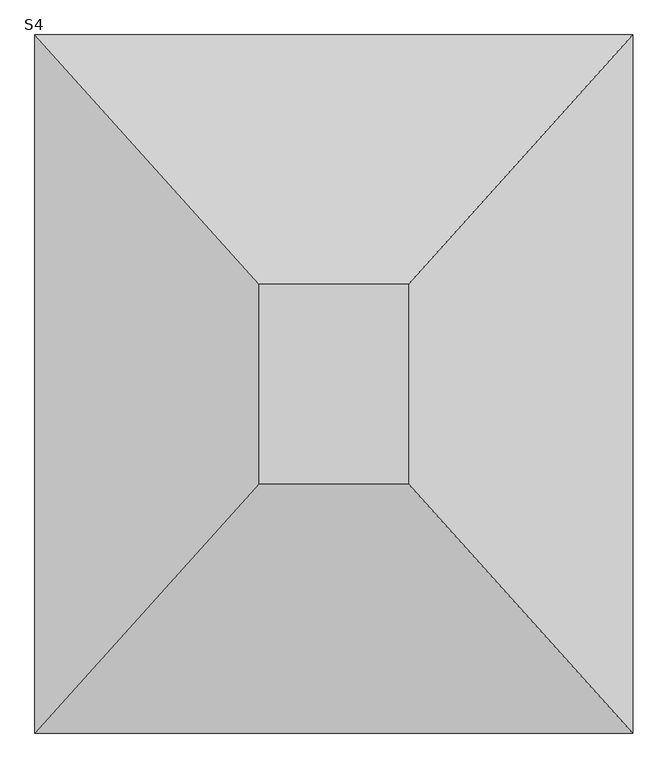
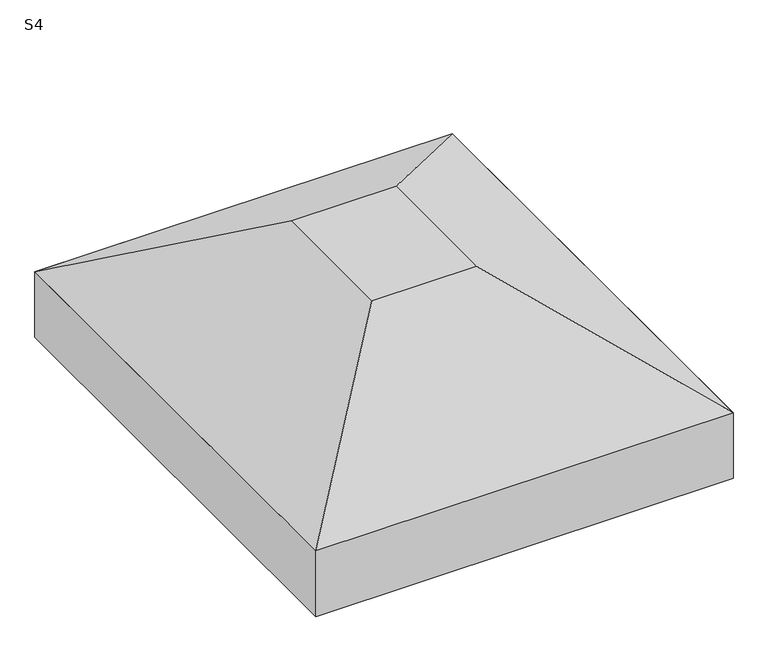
"""IFC4 building model written with IfcOpenShell, lengths in millimetres: fastener geometry, TQS - Sapata : S4."""

from ifc_helpers import new_model, si_unit, frame, origin, place, context, project, spatial, polyline, outline, extrude, faceted_brep, source, transform, mapped, element, save


def s4_ccf26fc8(model_context):
    return source(origin(), model_context, "Body", "SolidModel", [
        faceted_brep([(-50.0, 0.0, 0.0), (-350.0, 0.0, 0.0), (-350.0, -400.0, 0.0), (-50.0, -400.0, 0.0), (400.0, 500.0, -300.0), (400.0, -900.0, -300.0), (-800.0, -900.0, -300.0), (-800.0, 500.0, -300.0)], [[[0, 1, 2, 3]], [[4, 5, 6, 7]], [[4, 7, 1, 0]], [[7, 6, 2, 1]], [[6, 5, 3, 2]], [[5, 4, 0, 3]]]),
        extrude(outline(polyline([(400.0, 500.0), (400.0, -900.0), (-800.0, -900.0), (-800.0, 500.0), (400.0, 500.0)])), frame((0.0, 0.0, -500.0), z_axis=(0.0, 0.0, 1.0), x_axis=(1.0, 0.0, 0.0)), (0.0, 0.0, 1.0), 200.0),
    ])


if __name__ == "__main__":
    model = new_model("IFC4")
    model_context = context("Model", 3, world=origin())
    ifc_project = project(units=[si_unit("LENGTHUNIT", "METRE", prefix="MILLI")], contexts=[model_context])
    site = spatial("IfcSite", under=ifc_project)
    building = spatial("IfcBuilding", under=site)
    placement = place(None, origin())
    s4_shape = s4_ccf26fc8(model_context)
    element("IfcFastener", 1, ObjectType="TQS - Sapata : S4", at=placement, inside=building, context=model_context, shape_type="MappedRepresentation", body=[
        mapped(s4_shape, transform((0.0, 0.0, 0.0), x_axis=(1.0, 0.0, 0.0), y_axis=(0.0, 1.0, 0.0), z_axis=(0.0, 0.0, 1.0))),
    ])
    save(model, "model.ifc")
